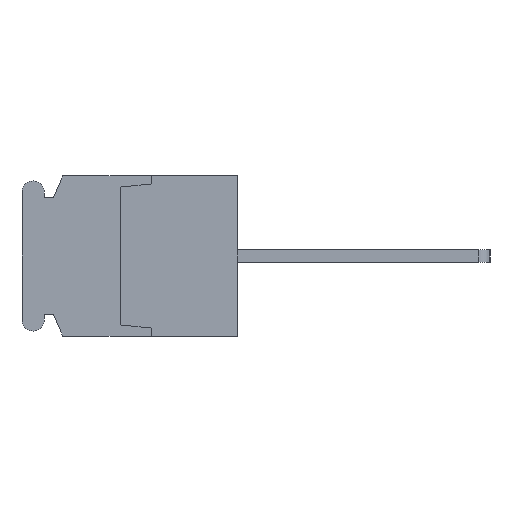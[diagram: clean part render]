
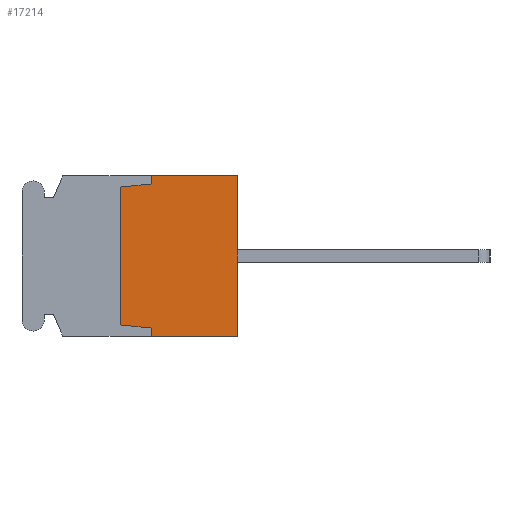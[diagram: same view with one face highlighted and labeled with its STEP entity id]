
A CAD part, left-side view. The second image highlights one B-rep face of the part: STEP entity #17214.
In plain terms, the highlighted planar face has unit normal (-1, 0, 0).
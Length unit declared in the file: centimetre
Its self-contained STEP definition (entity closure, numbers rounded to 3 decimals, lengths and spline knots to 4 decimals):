
#2179=VECTOR('',#21289,1.);
#2180=VECTOR('',#21290,1.);
#2181=VECTOR('',#21291,1.);
#2182=VECTOR('',#21292,1.);
#2183=VECTOR('',#21293,1.);
#2184=VECTOR('',#21294,1.);
#2185=VECTOR('',#21295,1.);
#2186=VECTOR('',#21296,1.);
#4079=LINE('',#26820,#2179);
#4080=LINE('',#26823,#2180);
#4081=LINE('',#26825,#2181);
#4082=LINE('',#26827,#2182);
#4083=LINE('',#26829,#2183);
#4084=LINE('',#26831,#2184);
#4085=LINE('',#26833,#2185);
#4086=LINE('',#26835,#2186);
#5879=VERTEX_POINT('',#26821);
#5880=VERTEX_POINT('',#26822);
#5881=VERTEX_POINT('',#26824);
#5882=VERTEX_POINT('',#26826);
#5883=VERTEX_POINT('',#26828);
#5884=VERTEX_POINT('',#26830);
#5885=VERTEX_POINT('',#26832);
#5886=VERTEX_POINT('',#26834);
#8596=EDGE_CURVE('',#5879,#5880,#4079,.T.);
#8597=EDGE_CURVE('',#5881,#5879,#4080,.T.);
#8598=EDGE_CURVE('',#5882,#5881,#4081,.T.);
#8599=EDGE_CURVE('',#5883,#5882,#4082,.T.);
#8600=EDGE_CURVE('',#5884,#5883,#4083,.T.);
#8601=EDGE_CURVE('',#5885,#5884,#4084,.T.);
#8602=EDGE_CURVE('',#5886,#5885,#4085,.T.);
#8603=EDGE_CURVE('',#5880,#5886,#4086,.T.);
#13096=ORIENTED_EDGE('',*,*,#8596,.F.);
#13097=ORIENTED_EDGE('',*,*,#8597,.F.);
#13098=ORIENTED_EDGE('',*,*,#8598,.F.);
#13099=ORIENTED_EDGE('',*,*,#8599,.F.);
#13100=ORIENTED_EDGE('',*,*,#8600,.F.);
#13101=ORIENTED_EDGE('',*,*,#8601,.F.);
#13102=ORIENTED_EDGE('',*,*,#8602,.F.);
#13103=ORIENTED_EDGE('',*,*,#8603,.F.);
#15146=EDGE_LOOP('',(#13096,#13097,#13098,#13099,#13100,#13101,#13102,#13103));
#16226=FACE_BOUND('',#15146,.T.);
#17214=ADVANCED_FACE('',(#16226),#17994,.F.);
#17994=PLANE('',#29512);
#21288=DIRECTION('',(1.,0.,0.));
#21289=DIRECTION('',(0.,0.,-1.));
#21290=DIRECTION('',(0.,-1.,0.));
#21291=DIRECTION('',(0.,0.,1.));
#21292=DIRECTION('',(0.,-0.995,0.1));
#21293=DIRECTION('',(0.,0.,1.));
#21294=DIRECTION('',(0.,0.995,0.1));
#21295=DIRECTION('',(0.,0.,1.));
#21296=DIRECTION('',(0.,1.,0.));
#26819=CARTESIAN_POINT('',(-1.07,0.4626,0.));
#26820=CARTESIAN_POINT('',(-1.07,0.,0.65));
#26821=CARTESIAN_POINT('',(-1.07,0.,0.65));
#26822=CARTESIAN_POINT('',(-1.07,0.,-0.65));
#26823=CARTESIAN_POINT('',(-1.07,0.7,0.65));
#26824=CARTESIAN_POINT('',(-1.07,0.7,0.65));
#26825=CARTESIAN_POINT('',(-1.07,0.7,0.585));
#26826=CARTESIAN_POINT('',(-1.07,0.7,0.585));
#26827=CARTESIAN_POINT('',(-1.07,0.95,0.56));
#26828=CARTESIAN_POINT('',(-1.07,0.95,0.56));
#26829=CARTESIAN_POINT('',(-1.07,0.95,-0.56));
#26830=CARTESIAN_POINT('',(-1.07,0.95,-0.56));
#26831=CARTESIAN_POINT('',(-1.07,0.7,-0.585));
#26832=CARTESIAN_POINT('',(-1.07,0.7,-0.585));
#26833=CARTESIAN_POINT('',(-1.07,0.7,-0.65));
#26834=CARTESIAN_POINT('',(-1.07,0.7,-0.65));
#26835=CARTESIAN_POINT('',(-1.07,0.,-0.65));
#29512=AXIS2_PLACEMENT_3D('',#26819,#21288,$);
